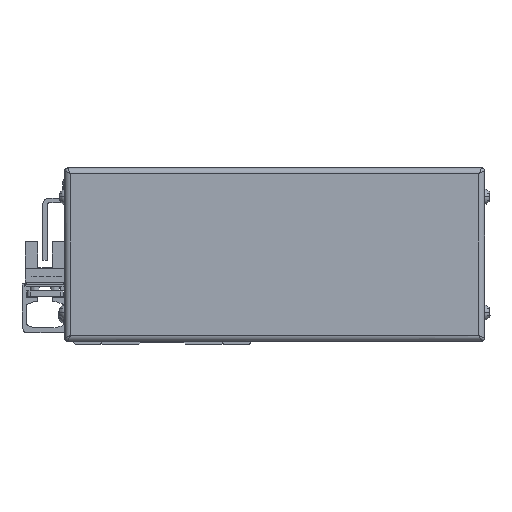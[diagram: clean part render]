
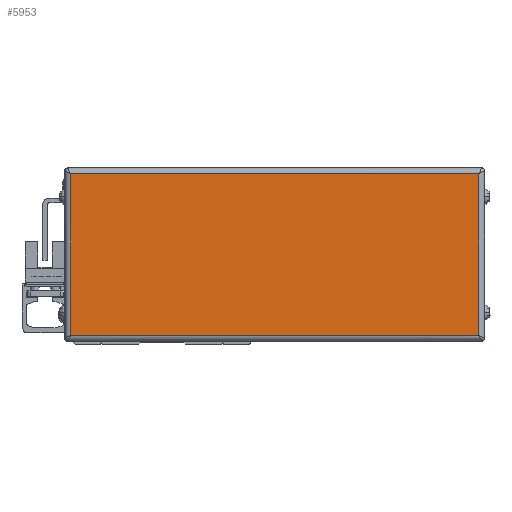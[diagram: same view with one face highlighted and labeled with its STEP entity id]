
A CAD part, left-side view. The second image highlights one B-rep face of the part: STEP entity #5953.
In plain terms, the highlighted planar face has unit normal (-1, 0, 0) as drawn and (0, 0, 1) by its records, which use the part's own axes.
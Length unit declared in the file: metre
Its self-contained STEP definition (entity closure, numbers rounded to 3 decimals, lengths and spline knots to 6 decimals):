
#5953=ADVANCED_FACE('',(#12012),#12013,.T.);
#12012=FACE_OUTER_BOUND('',#21244,.T.);
#12013=PLANE('',#21245);
#21244=EDGE_LOOP('',(#36244,#36245,#36246,#36247));
#21245=AXIS2_PLACEMENT_3D('',#36248,#36249,#36250);
#36244=ORIENTED_EDGE('',*,*,#46653,.F.);
#36245=ORIENTED_EDGE('',*,*,#46287,.F.);
#36246=ORIENTED_EDGE('',*,*,#44204,.F.);
#36247=ORIENTED_EDGE('',*,*,#42991,.F.);
#36248=CARTESIAN_POINT('',(-0.009,-0.053256,0.033889));
#36249=DIRECTION('',(0.0,0.0,1.0));
#36250=DIRECTION('',(1.0,0.0,0.0));
#42991=EDGE_CURVE('',#50964,#49830,#50966,.T.);
#44204=EDGE_CURVE('',#49830,#52703,#52851,.T.);
#46287=EDGE_CURVE('',#52703,#54074,#55761,.T.);
#46653=EDGE_CURVE('',#54074,#50964,#56233,.T.);
#49830=VERTEX_POINT('',#60591);
#50964=VERTEX_POINT('',#62173);
#50966=LINE('',#62184,#62185);
#52703=VERTEX_POINT('',#64791);
#52851=LINE('',#65031,#65032);
#54074=VERTEX_POINT('',#66870);
#55761=LINE('',#69448,#69449);
#56233=LINE('',#70117,#70118);
#60591=CARTESIAN_POINT('',(-0.037,-0.123956,0.033889));
#62173=CARTESIAN_POINT('',(0.019,-0.123956,0.033889));
#62184=CARTESIAN_POINT('',(-0.009,-0.123956,0.033889));
#62185=VECTOR('',#74167,1.0);
#64791=CARTESIAN_POINT('',(-0.037,0.017444,0.033889));
#65031=CARTESIAN_POINT('',(-0.037,-0.053256,0.033889));
#65032=VECTOR('',#75550,1.0);
#66870=CARTESIAN_POINT('',(0.019,0.017444,0.033889));
#69448=CARTESIAN_POINT('',(-0.009,0.017444,0.033889));
#69449=VECTOR('',#77722,1.0);
#70117=CARTESIAN_POINT('',(0.019,-0.053256,0.033889));
#70118=VECTOR('',#78091,1.0);
#74167=DIRECTION('',(-1.0,0.0,0.0));
#75550=DIRECTION('',(0.0,1.0,0.0));
#77722=DIRECTION('',(1.0,0.0,0.0));
#78091=DIRECTION('',(0.0,-1.0,0.0));
